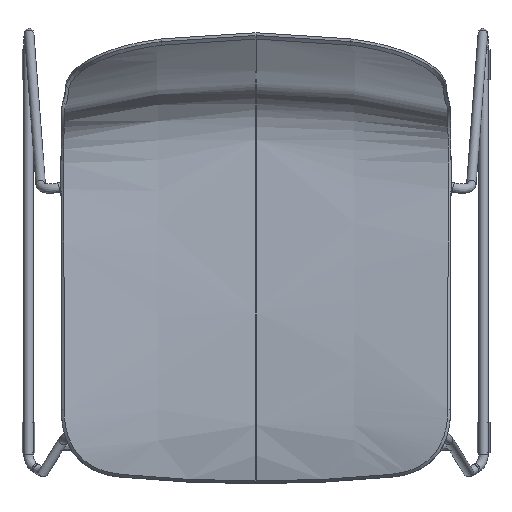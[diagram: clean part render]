
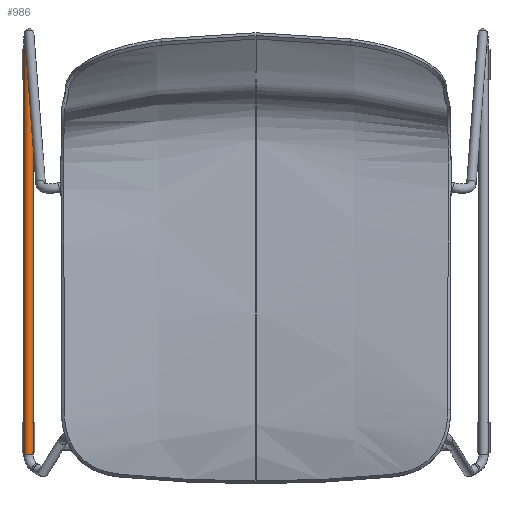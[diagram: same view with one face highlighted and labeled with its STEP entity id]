
A CAD part, top view. The second image highlights one B-rep face of the part: STEP entity #986.
In plain terms, the highlighted cylindrical face has radius 5.5 mm (diameter 11 mm), a full revolution.
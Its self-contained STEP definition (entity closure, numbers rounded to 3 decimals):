
#986=ADVANCED_FACE('',(#1912),#15136,.T.);
#1912=FACE_OUTER_BOUND('',#2923,.T.);
#2923=EDGE_LOOP('',(#7497,#7498,#7499,#7500));
#7497=ORIENTED_EDGE('',*,*,#10071,.T.);
#7498=ORIENTED_EDGE('',*,*,#10072,.T.);
#7499=ORIENTED_EDGE('',*,*,#10073,.F.);
#7500=ORIENTED_EDGE('',*,*,#10072,.F.);
#10071=EDGE_CURVE('',#14168,#14168,#12590,.T.);
#10072=EDGE_CURVE('',#14168,#14169,#12591,.T.);
#10073=EDGE_CURVE('',#14169,#14169,#12592,.T.);
#12590=(
BOUNDED_CURVE()
B_SPLINE_CURVE(2,(#74167,#74168,#74169,#74170,#74171,#74172,#74173,#74174,
#74175),.UNSPECIFIED.,.T.,.F.)
B_SPLINE_CURVE_WITH_KNOTS((3,2,2,2,3),(0.,8.639,17.279,
25.918,34.558),.UNSPECIFIED.)
CURVE()
GEOMETRIC_REPRESENTATION_ITEM()
RATIONAL_B_SPLINE_CURVE((1.,0.707,1.,0.707,1.,0.707,
1.,0.707,1.))
REPRESENTATION_ITEM('')
);
#12591=(
BOUNDED_CURVE()
B_SPLINE_CURVE(3,(#74176,#74177,#74178,#74179),.UNSPECIFIED.,.F.,.F.)
B_SPLINE_CURVE_WITH_KNOTS((4,4),(0.,472.331),.UNSPECIFIED.)
CURVE()
GEOMETRIC_REPRESENTATION_ITEM()
RATIONAL_B_SPLINE_CURVE((1.,1.,1.,1.))
REPRESENTATION_ITEM('')
);
#12592=(
BOUNDED_CURVE()
B_SPLINE_CURVE(2,(#74180,#74181,#74182,#74183,#74184,#74185,#74186,#74187,
#74188),.UNSPECIFIED.,.T.,.F.)
B_SPLINE_CURVE_WITH_KNOTS((3,2,2,2,3),(0.,8.639,17.279,
25.918,34.558),.UNSPECIFIED.)
CURVE()
GEOMETRIC_REPRESENTATION_ITEM()
RATIONAL_B_SPLINE_CURVE((1.,0.707,1.,0.707,1.,0.707,
1.,0.707,1.))
REPRESENTATION_ITEM('')
);
#14168=VERTEX_POINT('',#74051);
#14169=VERTEX_POINT('',#74052);
#15136=CYLINDRICAL_SURFACE('',#15777,5.5);
#15777=AXIS2_PLACEMENT_3D('',#73779,#16343,$);
#16343=DIRECTION('',(0.,-1.,0.));
#73779=CARTESIAN_POINT('',(-264.,25.511,8.501));
#74051=CARTESIAN_POINT('',(-269.413,261.677,7.528));
#74052=CARTESIAN_POINT('',(-269.413,-210.654,7.528));
#74167=CARTESIAN_POINT('',(-269.413,261.677,7.528));
#74168=CARTESIAN_POINT('',(-268.44,261.677,2.115));
#74169=CARTESIAN_POINT('',(-263.027,261.677,3.088));
#74170=CARTESIAN_POINT('',(-257.614,261.677,4.061));
#74171=CARTESIAN_POINT('',(-258.587,261.677,9.475));
#74172=CARTESIAN_POINT('',(-259.56,261.677,14.888));
#74173=CARTESIAN_POINT('',(-264.973,261.677,13.915));
#74174=CARTESIAN_POINT('',(-270.386,261.677,12.941));
#74175=CARTESIAN_POINT('',(-269.413,261.677,7.528));
#74176=CARTESIAN_POINT('',(-269.413,261.677,7.528));
#74177=CARTESIAN_POINT('',(-269.413,104.233,7.528));
#74178=CARTESIAN_POINT('',(-269.413,-53.211,7.528));
#74179=CARTESIAN_POINT('',(-269.413,-210.654,7.528));
#74180=CARTESIAN_POINT('',(-269.413,-210.654,7.528));
#74181=CARTESIAN_POINT('',(-268.44,-210.654,2.115));
#74182=CARTESIAN_POINT('',(-263.027,-210.654,3.088));
#74183=CARTESIAN_POINT('',(-257.614,-210.654,4.061));
#74184=CARTESIAN_POINT('',(-258.587,-210.654,9.475));
#74185=CARTESIAN_POINT('',(-259.56,-210.654,14.888));
#74186=CARTESIAN_POINT('',(-264.973,-210.654,13.915));
#74187=CARTESIAN_POINT('',(-270.386,-210.654,12.941));
#74188=CARTESIAN_POINT('',(-269.413,-210.654,7.528));
